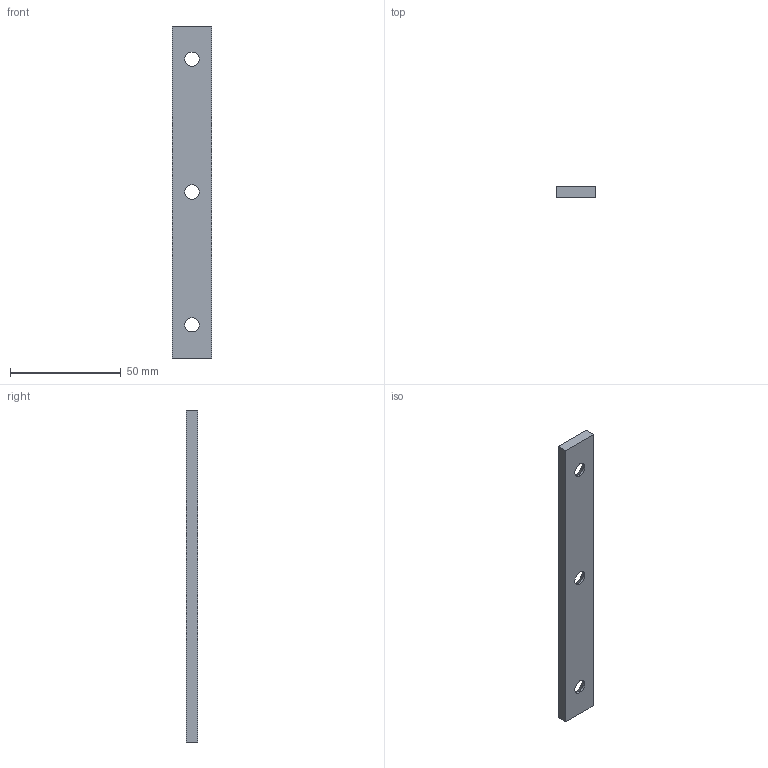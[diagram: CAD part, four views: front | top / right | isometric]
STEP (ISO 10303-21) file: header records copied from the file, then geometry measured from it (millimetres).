
FILE_DESCRIPTION(('CATIA V5 STEP Exchange'),'2;1');
FILE_NAME('C:\Users\Utente\Desktop\3D files A605\A605-018-150.stp','2020-04-13T15:45:44+00:00',('none'),('none'),'CATIA Version 5 Release 20 GA (IN-10)','CATIA V5 STEP AP203','none');
FILE_SCHEMA(('CONFIG_CONTROL_DESIGN'));
Length unit declared in the file: millimetre
Products named in the file (1): Noname
Bounding box: 18 x 5 x 150 mm (x, y, z)
Surface area: 7106.2 mm2 (no closed solid volume)
Topology: 0 solids, 12 shells, 18 faces, 72 edges, 60 vertices
Faces by surface type: extrusion 6, cylinder 6, revolution 6
Entity records: 918 total; most frequent: CARTESIAN_POINT 301, DIRECTION 84, ORIENTED_EDGE 84, EDGE_CURVE 72, VERTEX_POINT 60, VECTOR 42, LINE 36, AXIS2_PLACEMENT_3D 31
